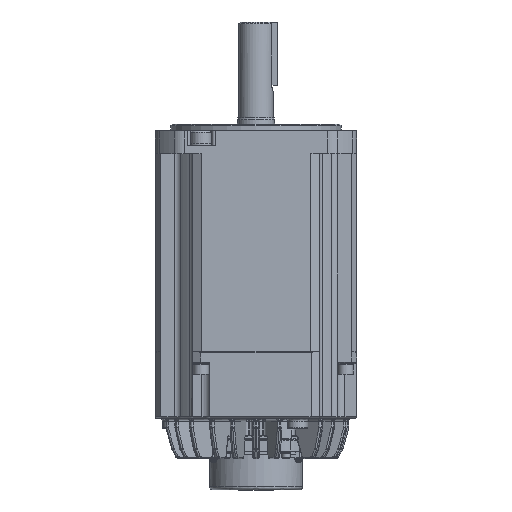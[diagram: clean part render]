
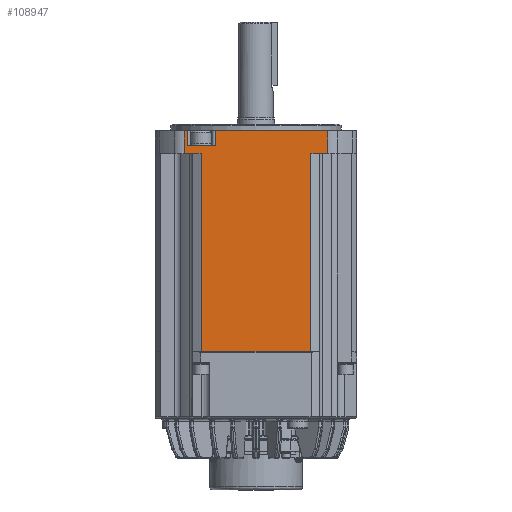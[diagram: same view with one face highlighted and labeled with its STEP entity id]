
A CAD part, front view. The second image highlights one B-rep face of the part: STEP entity #108947.
In plain terms, the highlighted planar face has unit normal (0, -1, 0).
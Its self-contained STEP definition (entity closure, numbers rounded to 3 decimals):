
#253 = LINE ( 'NONE', #15815, #66553 ) ;
#340 = DIRECTION ( 'NONE',  ( 0., 0., 1. ) ) ;
#1739 = LINE ( 'NONE', #159255, #158821 ) ;
#2072 = VERTEX_POINT ( 'NONE', #55206 ) ;
#2233 = VERTEX_POINT ( 'NONE', #90889 ) ;
#2826 = VERTEX_POINT ( 'NONE', #24796 ) ;
#3025 = CARTESIAN_POINT ( 'NONE',  ( 130.924, 119.822, 218.002 ) ) ;
#4204 = CARTESIAN_POINT ( 'NONE',  ( 221.889, 119.822, 203.302 ) ) ;
#5628 = LINE ( 'NONE', #45572, #105003 ) ;
#13154 = EDGE_CURVE ( 'NONE', #122042, #2826, #118722, .T. ) ;
#15572 = EDGE_CURVE ( 'NONE', #154432, #122042, #160623, .T. ) ;
#15815 = CARTESIAN_POINT ( 'NONE',  ( 139.923, 119.822, 203.302 ) ) ;
#16602 = CARTESIAN_POINT ( 'NONE',  ( 128.959, 119.822, 147.302 ) ) ;
#18843 = CARTESIAN_POINT ( 'NONE',  ( 139.923, 119.822, 75.302 ) ) ;
#20385 = VERTEX_POINT ( 'NONE', #128247 ) ;
#20935 = ORIENTED_EDGE ( 'NONE', *, *, #160726, .T. ) ;
#22625 = VECTOR ( 'NONE', #73751, 1000. ) ;
#23461 = VECTOR ( 'NONE', #53314, 1000. ) ;
#24796 = CARTESIAN_POINT ( 'NONE',  ( 175.424, 119.822, 75.302 ) ) ;
#27211 = LINE ( 'NONE', #110996, #155128 ) ;
#29090 = CARTESIAN_POINT ( 'NONE',  ( 141.712, 119.822, 208.302 ) ) ;
#29653 = ORIENTED_EDGE ( 'NONE', *, *, #156944, .T. ) ;
#29925 = ORIENTED_EDGE ( 'NONE', *, *, #159063, .T. ) ;
#30061 = LINE ( 'NONE', #18843, #96260 ) ;
#31097 = LINE ( 'NONE', #37048, #34950 ) ;
#34308 = DIRECTION ( 'NONE',  ( 0., 0., -1. ) ) ;
#34950 = VECTOR ( 'NONE', #111502, 1000. ) ;
#36417 = CARTESIAN_POINT ( 'NONE',  ( 210.924, 119.822, 147.302 ) ) ;
#37048 = CARTESIAN_POINT ( 'NONE',  ( 148.924, 119.822, 147.302 ) ) ;
#43305 = DIRECTION ( 'NONE',  ( 1., 0., 0. ) ) ;
#44198 = ORIENTED_EDGE ( 'NONE', *, *, #154108, .T. ) ;
#45572 = CARTESIAN_POINT ( 'NONE',  ( 139.923, 119.822, 218.002 ) ) ;
#45598 = CARTESIAN_POINT ( 'NONE',  ( 139.923, 119.822, 75.302 ) ) ;
#46040 = LINE ( 'NONE', #126207, #79344 ) ;
#46181 = DIRECTION ( 'NONE',  ( 0., 0., 1. ) ) ;
#47666 = ORIENTED_EDGE ( 'NONE', *, *, #149442, .T. ) ;
#48687 = VERTEX_POINT ( 'NONE', #155665 ) ;
#51359 = FACE_OUTER_BOUND ( 'NONE', #84080, .T. ) ;
#52491 = LINE ( 'NONE', #16602, #147461 ) ;
#53314 = DIRECTION ( 'NONE',  ( 1., 0., 0. ) ) ;
#55068 = CARTESIAN_POINT ( 'NONE',  ( 139.923, 119.822, 208.302 ) ) ;
#55206 = CARTESIAN_POINT ( 'NONE',  ( 130.924, 119.822, 208.302 ) ) ;
#58823 = CARTESIAN_POINT ( 'NONE',  ( 139.923, 119.822, 147.302 ) ) ;
#66553 = VECTOR ( 'NONE', #102983, 1000. ) ;
#67267 = LINE ( 'NONE', #36417, #100353 ) ;
#68383 = CARTESIAN_POINT ( 'NONE',  ( 128.959, 119.822, 218.002 ) ) ;
#72765 = VERTEX_POINT ( 'NONE', #81058 ) ;
#73162 = DIRECTION ( 'NONE',  ( 0., 0., -1. ) ) ;
#73751 = DIRECTION ( 'NONE',  ( 1., 0., 0. ) ) ;
#74686 = DIRECTION ( 'NONE',  ( -1., 0., 0. ) ) ;
#74999 = CARTESIAN_POINT ( 'NONE',  ( 221.889, 119.822, 147.302 ) ) ;
#75074 = EDGE_CURVE ( 'NONE', #150588, #158943, #52491, .T. ) ;
#79344 = VECTOR ( 'NONE', #125068, 1000. ) ;
#81058 = CARTESIAN_POINT ( 'NONE',  ( 138.135, 119.822, 208.302 ) ) ;
#81237 = ORIENTED_EDGE ( 'NONE', *, *, #136154, .T. ) ;
#84080 = EDGE_LOOP ( 'NONE', ( #117536, #81237, #131650, #160942, #140286, #113028, #20935, #29925, #29653, #96540, #113534, #44198, #147695, #47666, #121815 ) ) ;
#85034 = LINE ( 'NONE', #147780, #22625 ) ;
#85959 = AXIS2_PLACEMENT_3D ( 'NONE', #58823, #108867, #34308 ) ;
#86748 = VERTEX_POINT ( 'NONE', #114586 ) ;
#88180 = CARTESIAN_POINT ( 'NONE',  ( 139.923, 119.822, 203.302 ) ) ;
#90889 = CARTESIAN_POINT ( 'NONE',  ( 148.924, 119.822, 218.002 ) ) ;
#94758 = DIRECTION ( 'NONE',  ( -1., 0., 0. ) ) ;
#95127 = VECTOR ( 'NONE', #73162, 1000. ) ;
#96260 = VECTOR ( 'NONE', #43305, 1000. ) ;
#96540 = ORIENTED_EDGE ( 'NONE', *, *, #156927, .T. ) ;
#98916 = LINE ( 'NONE', #74999, #106645 ) ;
#100353 = VECTOR ( 'NONE', #46181, 1000. ) ;
#102983 = DIRECTION ( 'NONE',  ( 1., 0., 0. ) ) ;
#105003 = VECTOR ( 'NONE', #132404, 1000. ) ;
#106645 = VECTOR ( 'NONE', #340, 1000. ) ;
#108368 = LINE ( 'NONE', #143891, #133391 ) ;
#108651 = VERTEX_POINT ( 'NONE', #3025 ) ;
#108867 = DIRECTION ( 'NONE',  ( 0., -1., 0. ) ) ;
#108947 = ADVANCED_FACE ( 'NONE', ( #51359 ), #145517, .T. ) ;
#110996 = CARTESIAN_POINT ( 'NONE',  ( 139.923, 119.822, 218.002 ) ) ;
#111502 = DIRECTION ( 'NONE',  ( 0., 0., -1. ) ) ;
#113028 = ORIENTED_EDGE ( 'NONE', *, *, #119911, .T. ) ;
#113534 = ORIENTED_EDGE ( 'NONE', *, *, #155099, .T. ) ;
#114586 = CARTESIAN_POINT ( 'NONE',  ( 210.924, 119.822, 203.302 ) ) ;
#117536 = ORIENTED_EDGE ( 'NONE', *, *, #75074, .T. ) ;
#118207 = DIRECTION ( 'NONE',  ( 0., 0., -1. ) ) ;
#118722 = LINE ( 'NONE', #45598, #23461 ) ;
#119911 = EDGE_CURVE ( 'NONE', #20385, #86748, #67267, .T. ) ;
#120856 = VERTEX_POINT ( 'NONE', #4204 ) ;
#120963 = EDGE_CURVE ( 'NONE', #2826, #20385, #30061, .T. ) ;
#121815 = ORIENTED_EDGE ( 'NONE', *, *, #149250, .T. ) ;
#122042 = VERTEX_POINT ( 'NONE', #128636 ) ;
#122670 = DIRECTION ( 'NONE',  ( 0., 0., 1. ) ) ;
#125068 = DIRECTION ( 'NONE',  ( -1., 0., 0. ) ) ;
#126207 = CARTESIAN_POINT ( 'NONE',  ( 139.923, 119.822, 208.302 ) ) ;
#128247 = CARTESIAN_POINT ( 'NONE',  ( 210.924, 119.822, 75.302 ) ) ;
#128636 = CARTESIAN_POINT ( 'NONE',  ( 139.923, 119.822, 75.302 ) ) ;
#131650 = ORIENTED_EDGE ( 'NONE', *, *, #15572, .T. ) ;
#132404 = DIRECTION ( 'NONE',  ( -1., 0., 0. ) ) ;
#133391 = VECTOR ( 'NONE', #94758, 1000. ) ;
#136154 = EDGE_CURVE ( 'NONE', #158943, #154432, #253, .T. ) ;
#140286 = ORIENTED_EDGE ( 'NONE', *, *, #120963, .T. ) ;
#141858 = DIRECTION ( 'NONE',  ( -1., 0., 0. ) ) ;
#143891 = CARTESIAN_POINT ( 'NONE',  ( 139.923, 119.822, 208.302 ) ) ;
#145517 = PLANE ( 'NONE',  #85959 ) ;
#147239 = CARTESIAN_POINT ( 'NONE',  ( 139.923, 119.822, 147.302 ) ) ;
#147454 = CARTESIAN_POINT ( 'NONE',  ( 148.924, 119.822, 208.302 ) ) ;
#147461 = VECTOR ( 'NONE', #118207, 1000. ) ;
#147695 = ORIENTED_EDGE ( 'NONE', *, *, #153921, .T. ) ;
#147780 = CARTESIAN_POINT ( 'NONE',  ( 139.923, 119.822, 203.302 ) ) ;
#149129 = VERTEX_POINT ( 'NONE', #29090 ) ;
#149250 = EDGE_CURVE ( 'NONE', #108651, #150588, #5628, .T. ) ;
#149442 = EDGE_CURVE ( 'NONE', #2072, #108651, #1739, .T. ) ;
#150588 = VERTEX_POINT ( 'NONE', #68383 ) ;
#151606 = LINE ( 'NONE', #55068, #155420 ) ;
#153921 = EDGE_CURVE ( 'NONE', #72765, #2072, #46040, .T. ) ;
#154108 = EDGE_CURVE ( 'NONE', #149129, #72765, #108368, .T. ) ;
#154432 = VERTEX_POINT ( 'NONE', #88180 ) ;
#154622 = CARTESIAN_POINT ( 'NONE',  ( 128.959, 119.822, 203.302 ) ) ;
#155099 = EDGE_CURVE ( 'NONE', #160307, #149129, #151606, .T. ) ;
#155128 = VECTOR ( 'NONE', #74686, 1000. ) ;
#155420 = VECTOR ( 'NONE', #141858, 1000. ) ;
#155665 = CARTESIAN_POINT ( 'NONE',  ( 221.889, 119.822, 218.002 ) ) ;
#156927 = EDGE_CURVE ( 'NONE', #2233, #160307, #31097, .T. ) ;
#156944 = EDGE_CURVE ( 'NONE', #48687, #2233, #27211, .T. ) ;
#158821 = VECTOR ( 'NONE', #122670, 1000. ) ;
#158943 = VERTEX_POINT ( 'NONE', #154622 ) ;
#159063 = EDGE_CURVE ( 'NONE', #120856, #48687, #98916, .T. ) ;
#159255 = CARTESIAN_POINT ( 'NONE',  ( 130.924, 119.822, 147.302 ) ) ;
#160307 = VERTEX_POINT ( 'NONE', #147454 ) ;
#160623 = LINE ( 'NONE', #147239, #95127 ) ;
#160726 = EDGE_CURVE ( 'NONE', #86748, #120856, #85034, .T. ) ;
#160942 = ORIENTED_EDGE ( 'NONE', *, *, #13154, .T. ) ;
